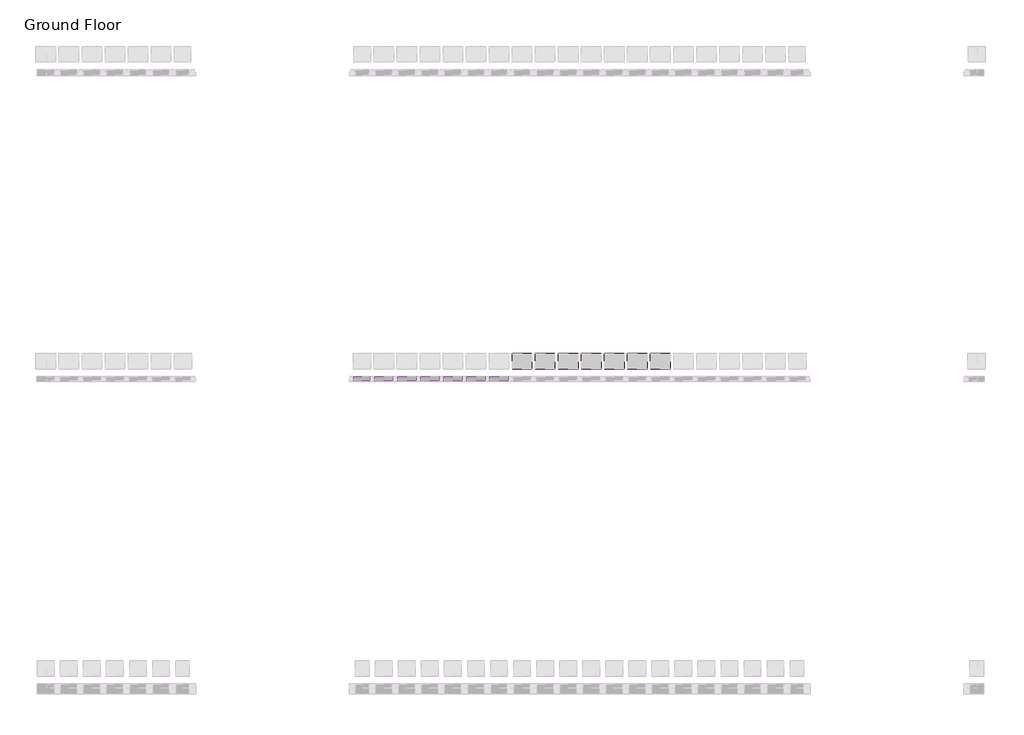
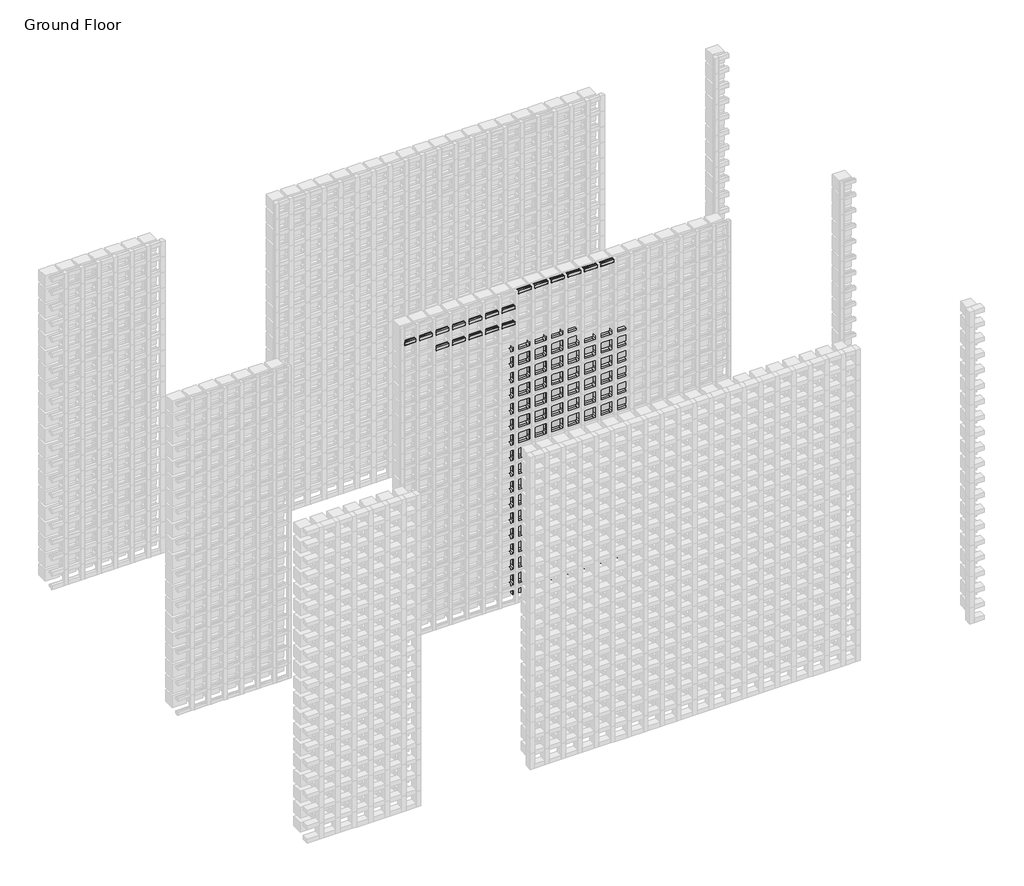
# One storey, part 106 of 350: 109 plates, 30 members.
"""IFC4 building model written with IfcOpenShell, lengths in millimetres."""

from ifc_helpers import new_model, si_unit, origin, place, context, project, spatial, transform, mapped, element, save
from components import rectangular_mullion_f1976eb1, rectangular_mullion_02594090, rectangular_mullion_790ae51e, rectangular_mullion_e2bab149, rectangular_mullion_707a50c4, empty_system_panel_empty_5a3607ba, empty_system_panel_empty_babc703c

model = new_model("IFC4")

# Units and contexts
model_context = context("Model", 3, world=origin())
ifc_project = project(units=[si_unit("LENGTHUNIT", "METRE", prefix="MILLI")], contexts=[model_context])

# Site, building, storey
site = spatial("IfcSite", under=ifc_project)
building = spatial("IfcBuilding", under=site)
storey = spatial("IfcBuildingStorey", under=building, Name="Ground Floor", Elevation=0.0)

# Members
placement = place(None, origin())
rectangular_mullion_shape = rectangular_mullion_f1976eb1(model_context)
element("IfcMember", 1, ObjectType="Rectangular Mullion : Batten_Timber_Modinex_Austratus_Grid_Fin_30x30_Blackbutt", at=placement, inside=storey, context=model_context, shape_type="MappedRepresentation", body=[
    mapped(rectangular_mullion_shape, transform((7116.4361642, 42968.2978302, 0.0), x_axis=(1.0, 0.0, 0.0), y_axis=(0.0, -1.0, 0.0), z_axis=(0.0, 0.0, -1.0))),
])
element("IfcMember", 2, ObjectType="Rectangular Mullion : Batten_Timber_Modinex_Austratus_Grid_Fin_30x30_Blackbutt", at=placement, inside=storey, context=model_context, shape_type="MappedRepresentation", body=[
    mapped(rectangular_mullion_shape, transform((7266.4361642, 42968.2978302, 0.0), x_axis=(1.0, 0.0, 0.0), y_axis=(0.0, -1.0, 0.0), z_axis=(0.0, 0.0, -1.0))),
])
element("IfcMember", 3, ObjectType="Rectangular Mullion : Batten_Timber_Modinex_Austratus_Grid_Fin_30x30_Blackbutt", at=placement, inside=storey, context=model_context, shape_type="MappedRepresentation", body=[
    mapped(rectangular_mullion_shape, transform((7416.4361642, 42968.2978302, 0.0), x_axis=(1.0, 0.0, 0.0), y_axis=(0.0, -1.0, 0.0), z_axis=(0.0, 0.0, -1.0))),
])
element("IfcMember", 4, ObjectType="Rectangular Mullion : Batten_Timber_Modinex_Austratus_Grid_Fin_30x30_Blackbutt", at=placement, inside=storey, context=model_context, shape_type="MappedRepresentation", body=[
    mapped(rectangular_mullion_shape, transform((7566.4361642, 42968.2978302, 0.0), x_axis=(1.0, 0.0, 0.0), y_axis=(0.0, -1.0, 0.0), z_axis=(0.0, 0.0, -1.0))),
])
element("IfcMember", 5, ObjectType="Rectangular Mullion : Batten_Timber_Modinex_Austratus_Grid_Fin_30x30_Blackbutt", at=placement, inside=storey, context=model_context, shape_type="MappedRepresentation", body=[
    mapped(rectangular_mullion_shape, transform((7716.4361642, 42968.2978302, 0.0), x_axis=(1.0, 0.0, 0.0), y_axis=(0.0, -1.0, 0.0), z_axis=(0.0, 0.0, -1.0))),
])
element("IfcMember", 6, ObjectType="Rectangular Mullion : Batten_Timber_Modinex_Austratus_Grid_Fin_30x30_Blackbutt", at=placement, inside=storey, context=model_context, shape_type="MappedRepresentation", body=[
    mapped(rectangular_mullion_shape, transform((7866.4361642, 42968.2978302, 0.0), x_axis=(1.0, 0.0, 0.0), y_axis=(0.0, -1.0, 0.0), z_axis=(0.0, 0.0, -1.0))),
])
rectangular_mullion_2_shape = rectangular_mullion_02594090(model_context)
element("IfcMember", 7, ObjectType="Rectangular Mullion : Batten_Timber_Modinex_Austratus_Grid_Fin_30x30_Blackbutt", at=placement, inside=storey, context=model_context, shape_type="MappedRepresentation", body=[
    mapped(rectangular_mullion_2_shape, transform((7101.4361642, 42968.2978302, 3000.0), x_axis=(0.0, 0.0, 1.0), y_axis=(0.0, -1.0, 0.0), z_axis=(1.0, 0.0, 0.0))),
])
element("IfcMember", 8, ObjectType="Rectangular Mullion : Batten_Timber_Modinex_Austratus_Grid_Fin_30x30_Blackbutt", at=placement, inside=storey, context=model_context, shape_type="MappedRepresentation", body=[
    mapped(rectangular_mullion_2_shape, transform((7251.4361642, 42968.2978302, 3000.0), x_axis=(0.0, 0.0, 1.0), y_axis=(0.0, -1.0, 0.0), z_axis=(1.0, 0.0, 0.0))),
])
element("IfcMember", 9, ObjectType="Rectangular Mullion : Batten_Timber_Modinex_Austratus_Grid_Fin_30x30_Blackbutt", at=placement, inside=storey, context=model_context, shape_type="MappedRepresentation", body=[
    mapped(rectangular_mullion_2_shape, transform((7401.4361642, 42968.2978302, 3000.0), x_axis=(0.0, 0.0, 1.0), y_axis=(0.0, -1.0, 0.0), z_axis=(1.0, 0.0, 0.0))),
])
element("IfcMember", 10, ObjectType="Rectangular Mullion : Batten_Timber_Modinex_Austratus_Grid_Fin_30x30_Blackbutt", at=placement, inside=storey, context=model_context, shape_type="MappedRepresentation", body=[
    mapped(rectangular_mullion_2_shape, transform((7551.4361642, 42968.2978302, 3000.0), x_axis=(0.0, 0.0, 1.0), y_axis=(0.0, -1.0, 0.0), z_axis=(1.0, 0.0, 0.0))),
])
element("IfcMember", 11, ObjectType="Rectangular Mullion : Batten_Timber_Modinex_Austratus_Grid_Fin_30x30_Blackbutt", at=placement, inside=storey, context=model_context, shape_type="MappedRepresentation", body=[
    mapped(rectangular_mullion_2_shape, transform((7701.4361642, 42968.2978302, 3000.0), x_axis=(0.0, 0.0, 1.0), y_axis=(0.0, -1.0, 0.0), z_axis=(1.0, 0.0, 0.0))),
])
element("IfcMember", 12, ObjectType="Rectangular Mullion : Batten_Timber_Modinex_Austratus_Grid_Fin_30x30_Blackbutt", at=placement, inside=storey, context=model_context, shape_type="MappedRepresentation", body=[
    mapped(rectangular_mullion_2_shape, transform((7851.4361642, 42968.2978302, 3000.0), x_axis=(0.0, 0.0, 1.0), y_axis=(0.0, -1.0, 0.0), z_axis=(1.0, 0.0, 0.0))),
])
rectangular_mullion_3_shape = rectangular_mullion_790ae51e(model_context)
element("IfcMember", 13, ObjectType="Rectangular Mullion : Batten_Timber_Modinex_Austratus_Grid_Fin_30x30_Blackbutt", at=placement, inside=storey, context=model_context, shape_type="MappedRepresentation", body=[
    mapped(rectangular_mullion_3_shape, transform((7131.4361642, 42968.2978302, 0.0), x_axis=(0.0, 0.0, -1.0), y_axis=(0.0, -1.0, 0.0), z_axis=(-1.0, 0.0, 0.0))),
])
element("IfcMember", 14, ObjectType="Rectangular Mullion : Batten_Timber_Modinex_Austratus_Grid_Fin_30x30_Blackbutt", at=placement, inside=storey, context=model_context, shape_type="MappedRepresentation", body=[
    mapped(rectangular_mullion_3_shape, transform((7281.4361642, 42968.2978302, 0.0), x_axis=(0.0, 0.0, -1.0), y_axis=(0.0, -1.0, 0.0), z_axis=(-1.0, 0.0, 0.0))),
])
element("IfcMember", 15, ObjectType="Rectangular Mullion : Batten_Timber_Modinex_Austratus_Grid_Fin_30x30_Blackbutt", at=placement, inside=storey, context=model_context, shape_type="MappedRepresentation", body=[
    mapped(rectangular_mullion_3_shape, transform((7431.4361642, 42968.2978302, 0.0), x_axis=(0.0, 0.0, -1.0), y_axis=(0.0, -1.0, 0.0), z_axis=(-1.0, 0.0, 0.0))),
])
element("IfcMember", 16, ObjectType="Rectangular Mullion : Batten_Timber_Modinex_Austratus_Grid_Fin_30x30_Blackbutt", at=placement, inside=storey, context=model_context, shape_type="MappedRepresentation", body=[
    mapped(rectangular_mullion_3_shape, transform((7581.4361642, 42968.2978302, 0.0), x_axis=(0.0, 0.0, -1.0), y_axis=(0.0, -1.0, 0.0), z_axis=(-1.0, 0.0, 0.0))),
])
element("IfcMember", 17, ObjectType="Rectangular Mullion : Batten_Timber_Modinex_Austratus_Grid_Fin_30x30_Blackbutt", at=placement, inside=storey, context=model_context, shape_type="MappedRepresentation", body=[
    mapped(rectangular_mullion_3_shape, transform((7731.4361642, 42968.2978302, 0.0), x_axis=(0.0, 0.0, -1.0), y_axis=(0.0, -1.0, 0.0), z_axis=(-1.0, 0.0, 0.0))),
])
element("IfcMember", 18, ObjectType="Rectangular Mullion : Batten_Timber_Modinex_Austratus_Grid_Fin_30x30_Blackbutt", at=placement, inside=storey, context=model_context, shape_type="MappedRepresentation", body=[
    mapped(rectangular_mullion_3_shape, transform((7881.4361642, 42968.2978302, 0.0), x_axis=(0.0, 0.0, -1.0), y_axis=(0.0, -1.0, 0.0), z_axis=(-1.0, 0.0, 0.0))),
])
rectangular_mullion_4_shape = rectangular_mullion_e2bab149(model_context)
element("IfcMember", 19, ObjectType="Rectangular Mullion : Batten_Timber_Modinex_Austratus_Grid_Fin_30x30_Blackbutt", at=placement, inside=storey, context=model_context, shape_type="MappedRepresentation", body=[
    mapped(rectangular_mullion_4_shape, transform((6051.4361642, 42968.2978302, 2850.0), x_axis=(0.0, 0.0, 1.0), y_axis=(0.0, -1.0, 0.0), z_axis=(1.0, 0.0, 0.0))),
])
rectangular_mullion_5_shape = rectangular_mullion_707a50c4(model_context)
element("IfcMember", 20, ObjectType="Rectangular Mullion : Batten_Timber_Modinex_Austratus_Grid_Fin_30x30_Blackbutt", at=placement, inside=storey, context=model_context, shape_type="MappedRepresentation", body=[
    mapped(rectangular_mullion_5_shape, transform((6351.4361642, 42968.2978302, 2700.0), x_axis=(0.0, 0.0, 1.0), y_axis=(0.0, -1.0, 0.0), z_axis=(1.0, 0.0, 0.0))),
])
element("IfcMember", 21, ObjectType="Rectangular Mullion : Batten_Timber_Modinex_Austratus_Grid_Fin_30x30_Blackbutt", at=placement, inside=storey, context=model_context, shape_type="MappedRepresentation", body=[
    mapped(rectangular_mullion_5_shape, transform((6501.4361642, 42968.2978302, 2700.0), x_axis=(0.0, 0.0, 1.0), y_axis=(0.0, -1.0, 0.0), z_axis=(1.0, 0.0, 0.0))),
])
element("IfcMember", 22, ObjectType="Rectangular Mullion : Batten_Timber_Modinex_Austratus_Grid_Fin_30x30_Blackbutt", at=placement, inside=storey, context=model_context, shape_type="MappedRepresentation", body=[
    mapped(rectangular_mullion_5_shape, transform((6651.4361642, 42968.2978302, 2700.0), x_axis=(0.0, 0.0, 1.0), y_axis=(0.0, -1.0, 0.0), z_axis=(1.0, 0.0, 0.0))),
])
element("IfcMember", 23, ObjectType="Rectangular Mullion : Batten_Timber_Modinex_Austratus_Grid_Fin_30x30_Blackbutt", at=placement, inside=storey, context=model_context, shape_type="MappedRepresentation", body=[
    mapped(rectangular_mullion_5_shape, transform((6801.4361642, 42968.2978302, 2700.0), x_axis=(0.0, 0.0, 1.0), y_axis=(0.0, -1.0, 0.0), z_axis=(1.0, 0.0, 0.0))),
])
element("IfcMember", 24, ObjectType="Rectangular Mullion : Batten_Timber_Modinex_Austratus_Grid_Fin_30x30_Blackbutt", at=placement, inside=storey, context=model_context, shape_type="MappedRepresentation", body=[
    mapped(rectangular_mullion_5_shape, transform((6951.4361642, 42968.2978302, 2700.0), x_axis=(0.0, 0.0, 1.0), y_axis=(0.0, -1.0, 0.0), z_axis=(1.0, 0.0, 0.0))),
])
element("IfcMember", 25, ObjectType="Rectangular Mullion : Batten_Timber_Modinex_Austratus_Grid_Fin_30x30_Blackbutt", at=placement, inside=storey, context=model_context, shape_type="MappedRepresentation", body=[
    mapped(rectangular_mullion_5_shape, transform((6201.4361642, 42968.2978302, 2850.0), x_axis=(0.0, 0.0, 1.0), y_axis=(0.0, -1.0, 0.0), z_axis=(1.0, 0.0, 0.0))),
])
element("IfcMember", 26, ObjectType="Rectangular Mullion : Batten_Timber_Modinex_Austratus_Grid_Fin_30x30_Blackbutt", at=placement, inside=storey, context=model_context, shape_type="MappedRepresentation", body=[
    mapped(rectangular_mullion_5_shape, transform((6351.4361642, 42968.2978302, 2850.0), x_axis=(0.0, 0.0, 1.0), y_axis=(0.0, -1.0, 0.0), z_axis=(1.0, 0.0, 0.0))),
])
element("IfcMember", 27, ObjectType="Rectangular Mullion : Batten_Timber_Modinex_Austratus_Grid_Fin_30x30_Blackbutt", at=placement, inside=storey, context=model_context, shape_type="MappedRepresentation", body=[
    mapped(rectangular_mullion_5_shape, transform((6501.4361642, 42968.2978302, 2850.0), x_axis=(0.0, 0.0, 1.0), y_axis=(0.0, -1.0, 0.0), z_axis=(1.0, 0.0, 0.0))),
])
element("IfcMember", 28, ObjectType="Rectangular Mullion : Batten_Timber_Modinex_Austratus_Grid_Fin_30x30_Blackbutt", at=placement, inside=storey, context=model_context, shape_type="MappedRepresentation", body=[
    mapped(rectangular_mullion_5_shape, transform((6651.4361642, 42968.2978302, 2850.0), x_axis=(0.0, 0.0, 1.0), y_axis=(0.0, -1.0, 0.0), z_axis=(1.0, 0.0, 0.0))),
])
element("IfcMember", 29, ObjectType="Rectangular Mullion : Batten_Timber_Modinex_Austratus_Grid_Fin_30x30_Blackbutt", at=placement, inside=storey, context=model_context, shape_type="MappedRepresentation", body=[
    mapped(rectangular_mullion_5_shape, transform((6801.4361642, 42968.2978302, 2850.0), x_axis=(0.0, 0.0, 1.0), y_axis=(0.0, -1.0, 0.0), z_axis=(1.0, 0.0, 0.0))),
])
element("IfcMember", 30, ObjectType="Rectangular Mullion : Batten_Timber_Modinex_Austratus_Grid_Fin_30x30_Blackbutt", at=placement, inside=storey, context=model_context, shape_type="MappedRepresentation", body=[
    mapped(rectangular_mullion_5_shape, transform((6951.4361642, 42968.2978302, 2850.0), x_axis=(0.0, 0.0, 1.0), y_axis=(0.0, -1.0, 0.0), z_axis=(1.0, 0.0, 0.0))),
])

# Plates
empty_system_panel_empty_shape = empty_system_panel_empty_5a3607ba(model_context)
element("IfcPlate", 31, ObjectType="Empty System Panel : Empty", at=placement, inside=storey, context=model_context, shape_type="MappedRepresentation", body=[
    mapped(empty_system_panel_empty_shape, transform((7041.4361642, 42968.2978302, 160.812195), x_axis=(1.0, 0.0, 0.0), y_axis=(0.0, 1.0, 0.0), z_axis=(0.0, 0.0, 1.0))),
])
element("IfcPlate", 32, ObjectType="Empty System Panel : Empty", at=placement, inside=storey, context=model_context, shape_type="MappedRepresentation", body=[
    mapped(empty_system_panel_empty_shape, transform((7191.4361642, 42968.2978302, 160.812195), x_axis=(1.0, 0.0, 0.0), y_axis=(0.0, 1.0, 0.0), z_axis=(0.0, 0.0, 1.0))),
])
element("IfcPlate", 33, ObjectType="Empty System Panel : Empty", at=placement, inside=storey, context=model_context, shape_type="MappedRepresentation", body=[
    mapped(empty_system_panel_empty_shape, transform((7341.4361642, 42968.2978302, 160.812195), x_axis=(1.0, 0.0, 0.0), y_axis=(0.0, 1.0, 0.0), z_axis=(0.0, 0.0, 1.0))),
])
element("IfcPlate", 34, ObjectType="Empty System Panel : Empty", at=placement, inside=storey, context=model_context, shape_type="MappedRepresentation", body=[
    mapped(empty_system_panel_empty_shape, transform((7491.4361642, 42968.2978302, 160.812195), x_axis=(1.0, 0.0, 0.0), y_axis=(0.0, 1.0, 0.0), z_axis=(0.0, 0.0, 1.0))),
])
element("IfcPlate", 35, ObjectType="Empty System Panel : Empty", at=placement, inside=storey, context=model_context, shape_type="MappedRepresentation", body=[
    mapped(empty_system_panel_empty_shape, transform((7641.4361642, 42968.2978302, 160.812195), x_axis=(1.0, 0.0, 0.0), y_axis=(0.0, 1.0, 0.0), z_axis=(0.0, 0.0, 1.0))),
])
element("IfcPlate", 36, ObjectType="Empty System Panel : Empty", at=placement, inside=storey, context=model_context, shape_type="MappedRepresentation", body=[
    mapped(empty_system_panel_empty_shape, transform((7791.4361642, 42968.2978302, 160.812195), x_axis=(1.0, 0.0, 0.0), y_axis=(0.0, 1.0, 0.0), z_axis=(0.0, 0.0, 1.0))),
])
element("IfcPlate", 37, ObjectType="Empty System Panel : Empty", at=placement, inside=storey, context=model_context, shape_type="MappedRepresentation", body=[
    mapped(empty_system_panel_empty_shape, transform((7941.4361642, 42968.2978302, 160.812195), x_axis=(1.0, 0.0, 0.0), y_axis=(0.0, 1.0, 0.0), z_axis=(0.0, 0.0, 1.0))),
])
element("IfcPlate", 38, ObjectType="Empty System Panel : Empty", at=placement, inside=storey, context=model_context, shape_type="MappedRepresentation", body=[
    mapped(empty_system_panel_empty_shape, transform((7041.4361642, 42968.2978302, 310.812195), x_axis=(1.0, 0.0, 0.0), y_axis=(0.0, 1.0, 0.0), z_axis=(0.0, 0.0, 1.0))),
])
element("IfcPlate", 39, ObjectType="Empty System Panel : Empty", at=placement, inside=storey, context=model_context, shape_type="MappedRepresentation", body=[
    mapped(empty_system_panel_empty_shape, transform((7191.4361642, 42968.2978302, 310.812195), x_axis=(1.0, 0.0, 0.0), y_axis=(0.0, 1.0, 0.0), z_axis=(0.0, 0.0, 1.0))),
])
element("IfcPlate", 40, ObjectType="Empty System Panel : Empty", at=placement, inside=storey, context=model_context, shape_type="MappedRepresentation", body=[
    mapped(empty_system_panel_empty_shape, transform((7341.4361642, 42968.2978302, 310.812195), x_axis=(1.0, 0.0, 0.0), y_axis=(0.0, 1.0, 0.0), z_axis=(0.0, 0.0, 1.0))),
])
element("IfcPlate", 41, ObjectType="Empty System Panel : Empty", at=placement, inside=storey, context=model_context, shape_type="MappedRepresentation", body=[
    mapped(empty_system_panel_empty_shape, transform((7491.4361642, 42968.2978302, 310.812195), x_axis=(1.0, 0.0, 0.0), y_axis=(0.0, 1.0, 0.0), z_axis=(0.0, 0.0, 1.0))),
])
element("IfcPlate", 42, ObjectType="Empty System Panel : Empty", at=placement, inside=storey, context=model_context, shape_type="MappedRepresentation", body=[
    mapped(empty_system_panel_empty_shape, transform((7641.4361642, 42968.2978302, 310.812195), x_axis=(1.0, 0.0, 0.0), y_axis=(0.0, 1.0, 0.0), z_axis=(0.0, 0.0, 1.0))),
])
element("IfcPlate", 43, ObjectType="Empty System Panel : Empty", at=placement, inside=storey, context=model_context, shape_type="MappedRepresentation", body=[
    mapped(empty_system_panel_empty_shape, transform((7791.4361642, 42968.2978302, 310.812195), x_axis=(1.0, 0.0, 0.0), y_axis=(0.0, 1.0, 0.0), z_axis=(0.0, 0.0, 1.0))),
])
element("IfcPlate", 44, ObjectType="Empty System Panel : Empty", at=placement, inside=storey, context=model_context, shape_type="MappedRepresentation", body=[
    mapped(empty_system_panel_empty_shape, transform((7941.4361642, 42968.2978302, 310.812195), x_axis=(1.0, 0.0, 0.0), y_axis=(0.0, 1.0, 0.0), z_axis=(0.0, 0.0, 1.0))),
])
element("IfcPlate", 45, ObjectType="Empty System Panel : Empty", at=placement, inside=storey, context=model_context, shape_type="MappedRepresentation", body=[
    mapped(empty_system_panel_empty_shape, transform((7041.4361642, 42968.2978302, 460.812195), x_axis=(1.0, 0.0, 0.0), y_axis=(0.0, 1.0, 0.0), z_axis=(0.0, 0.0, 1.0))),
])
element("IfcPlate", 46, ObjectType="Empty System Panel : Empty", at=placement, inside=storey, context=model_context, shape_type="MappedRepresentation", body=[
    mapped(empty_system_panel_empty_shape, transform((7191.4361642, 42968.2978302, 460.812195), x_axis=(1.0, 0.0, 0.0), y_axis=(0.0, 1.0, 0.0), z_axis=(0.0, 0.0, 1.0))),
])
element("IfcPlate", 47, ObjectType="Empty System Panel : Empty", at=placement, inside=storey, context=model_context, shape_type="MappedRepresentation", body=[
    mapped(empty_system_panel_empty_shape, transform((7341.4361642, 42968.2978302, 460.812195), x_axis=(1.0, 0.0, 0.0), y_axis=(0.0, 1.0, 0.0), z_axis=(0.0, 0.0, 1.0))),
])
element("IfcPlate", 48, ObjectType="Empty System Panel : Empty", at=placement, inside=storey, context=model_context, shape_type="MappedRepresentation", body=[
    mapped(empty_system_panel_empty_shape, transform((7491.4361642, 42968.2978302, 460.812195), x_axis=(1.0, 0.0, 0.0), y_axis=(0.0, 1.0, 0.0), z_axis=(0.0, 0.0, 1.0))),
])
element("IfcPlate", 49, ObjectType="Empty System Panel : Empty", at=placement, inside=storey, context=model_context, shape_type="MappedRepresentation", body=[
    mapped(empty_system_panel_empty_shape, transform((7641.4361642, 42968.2978302, 460.812195), x_axis=(1.0, 0.0, 0.0), y_axis=(0.0, 1.0, 0.0), z_axis=(0.0, 0.0, 1.0))),
])
element("IfcPlate", 50, ObjectType="Empty System Panel : Empty", at=placement, inside=storey, context=model_context, shape_type="MappedRepresentation", body=[
    mapped(empty_system_panel_empty_shape, transform((7791.4361642, 42968.2978302, 460.812195), x_axis=(1.0, 0.0, 0.0), y_axis=(0.0, 1.0, 0.0), z_axis=(0.0, 0.0, 1.0))),
])
element("IfcPlate", 51, ObjectType="Empty System Panel : Empty", at=placement, inside=storey, context=model_context, shape_type="MappedRepresentation", body=[
    mapped(empty_system_panel_empty_shape, transform((7941.4361642, 42968.2978302, 460.812195), x_axis=(1.0, 0.0, 0.0), y_axis=(0.0, 1.0, 0.0), z_axis=(0.0, 0.0, 1.0))),
])
element("IfcPlate", 52, ObjectType="Empty System Panel : Empty", at=placement, inside=storey, context=model_context, shape_type="MappedRepresentation", body=[
    mapped(empty_system_panel_empty_shape, transform((7041.4361642, 42968.2978302, 610.812195), x_axis=(1.0, 0.0, 0.0), y_axis=(0.0, 1.0, 0.0), z_axis=(0.0, 0.0, 1.0))),
])
element("IfcPlate", 53, ObjectType="Empty System Panel : Empty", at=placement, inside=storey, context=model_context, shape_type="MappedRepresentation", body=[
    mapped(empty_system_panel_empty_shape, transform((7191.4361642, 42968.2978302, 610.812195), x_axis=(1.0, 0.0, 0.0), y_axis=(0.0, 1.0, 0.0), z_axis=(0.0, 0.0, 1.0))),
])
element("IfcPlate", 54, ObjectType="Empty System Panel : Empty", at=placement, inside=storey, context=model_context, shape_type="MappedRepresentation", body=[
    mapped(empty_system_panel_empty_shape, transform((7341.4361642, 42968.2978302, 610.812195), x_axis=(1.0, 0.0, 0.0), y_axis=(0.0, 1.0, 0.0), z_axis=(0.0, 0.0, 1.0))),
])
element("IfcPlate", 55, ObjectType="Empty System Panel : Empty", at=placement, inside=storey, context=model_context, shape_type="MappedRepresentation", body=[
    mapped(empty_system_panel_empty_shape, transform((7491.4361642, 42968.2978302, 610.812195), x_axis=(1.0, 0.0, 0.0), y_axis=(0.0, 1.0, 0.0), z_axis=(0.0, 0.0, 1.0))),
])
element("IfcPlate", 56, ObjectType="Empty System Panel : Empty", at=placement, inside=storey, context=model_context, shape_type="MappedRepresentation", body=[
    mapped(empty_system_panel_empty_shape, transform((7641.4361642, 42968.2978302, 610.812195), x_axis=(1.0, 0.0, 0.0), y_axis=(0.0, 1.0, 0.0), z_axis=(0.0, 0.0, 1.0))),
])
element("IfcPlate", 57, ObjectType="Empty System Panel : Empty", at=placement, inside=storey, context=model_context, shape_type="MappedRepresentation", body=[
    mapped(empty_system_panel_empty_shape, transform((7791.4361642, 42968.2978302, 610.812195), x_axis=(1.0, 0.0, 0.0), y_axis=(0.0, 1.0, 0.0), z_axis=(0.0, 0.0, 1.0))),
])
element("IfcPlate", 58, ObjectType="Empty System Panel : Empty", at=placement, inside=storey, context=model_context, shape_type="MappedRepresentation", body=[
    mapped(empty_system_panel_empty_shape, transform((7941.4361642, 42968.2978302, 610.812195), x_axis=(1.0, 0.0, 0.0), y_axis=(0.0, 1.0, 0.0), z_axis=(0.0, 0.0, 1.0))),
])
element("IfcPlate", 59, ObjectType="Empty System Panel : Empty", at=placement, inside=storey, context=model_context, shape_type="MappedRepresentation", body=[
    mapped(empty_system_panel_empty_shape, transform((7041.4361642, 42968.2978302, 760.812195), x_axis=(1.0, 0.0, 0.0), y_axis=(0.0, 1.0, 0.0), z_axis=(0.0, 0.0, 1.0))),
])
element("IfcPlate", 60, ObjectType="Empty System Panel : Empty", at=placement, inside=storey, context=model_context, shape_type="MappedRepresentation", body=[
    mapped(empty_system_panel_empty_shape, transform((7191.4361642, 42968.2978302, 760.812195), x_axis=(1.0, 0.0, 0.0), y_axis=(0.0, 1.0, 0.0), z_axis=(0.0, 0.0, 1.0))),
])
element("IfcPlate", 61, ObjectType="Empty System Panel : Empty", at=placement, inside=storey, context=model_context, shape_type="MappedRepresentation", body=[
    mapped(empty_system_panel_empty_shape, transform((7341.4361642, 42968.2978302, 760.812195), x_axis=(1.0, 0.0, 0.0), y_axis=(0.0, 1.0, 0.0), z_axis=(0.0, 0.0, 1.0))),
])
element("IfcPlate", 62, ObjectType="Empty System Panel : Empty", at=placement, inside=storey, context=model_context, shape_type="MappedRepresentation", body=[
    mapped(empty_system_panel_empty_shape, transform((7491.4361642, 42968.2978302, 760.812195), x_axis=(1.0, 0.0, 0.0), y_axis=(0.0, 1.0, 0.0), z_axis=(0.0, 0.0, 1.0))),
])
element("IfcPlate", 63, ObjectType="Empty System Panel : Empty", at=placement, inside=storey, context=model_context, shape_type="MappedRepresentation", body=[
    mapped(empty_system_panel_empty_shape, transform((7641.4361642, 42968.2978302, 760.812195), x_axis=(1.0, 0.0, 0.0), y_axis=(0.0, 1.0, 0.0), z_axis=(0.0, 0.0, 1.0))),
])
element("IfcPlate", 64, ObjectType="Empty System Panel : Empty", at=placement, inside=storey, context=model_context, shape_type="MappedRepresentation", body=[
    mapped(empty_system_panel_empty_shape, transform((7791.4361642, 42968.2978302, 760.812195), x_axis=(1.0, 0.0, 0.0), y_axis=(0.0, 1.0, 0.0), z_axis=(0.0, 0.0, 1.0))),
])
element("IfcPlate", 65, ObjectType="Empty System Panel : Empty", at=placement, inside=storey, context=model_context, shape_type="MappedRepresentation", body=[
    mapped(empty_system_panel_empty_shape, transform((7941.4361642, 42968.2978302, 760.812195), x_axis=(1.0, 0.0, 0.0), y_axis=(0.0, 1.0, 0.0), z_axis=(0.0, 0.0, 1.0))),
])
element("IfcPlate", 66, ObjectType="Empty System Panel : Empty", at=placement, inside=storey, context=model_context, shape_type="MappedRepresentation", body=[
    mapped(empty_system_panel_empty_shape, transform((7041.4361642, 42968.2978302, 910.812195), x_axis=(1.0, 0.0, 0.0), y_axis=(0.0, 1.0, 0.0), z_axis=(0.0, 0.0, 1.0))),
])
element("IfcPlate", 67, ObjectType="Empty System Panel : Empty", at=placement, inside=storey, context=model_context, shape_type="MappedRepresentation", body=[
    mapped(empty_system_panel_empty_shape, transform((7191.4361642, 42968.2978302, 910.812195), x_axis=(1.0, 0.0, 0.0), y_axis=(0.0, 1.0, 0.0), z_axis=(0.0, 0.0, 1.0))),
])
element("IfcPlate", 68, ObjectType="Empty System Panel : Empty", at=placement, inside=storey, context=model_context, shape_type="MappedRepresentation", body=[
    mapped(empty_system_panel_empty_shape, transform((7341.4361642, 42968.2978302, 910.812195), x_axis=(1.0, 0.0, 0.0), y_axis=(0.0, 1.0, 0.0), z_axis=(0.0, 0.0, 1.0))),
])
element("IfcPlate", 69, ObjectType="Empty System Panel : Empty", at=placement, inside=storey, context=model_context, shape_type="MappedRepresentation", body=[
    mapped(empty_system_panel_empty_shape, transform((7491.4361642, 42968.2978302, 910.812195), x_axis=(1.0, 0.0, 0.0), y_axis=(0.0, 1.0, 0.0), z_axis=(0.0, 0.0, 1.0))),
])
element("IfcPlate", 70, ObjectType="Empty System Panel : Empty", at=placement, inside=storey, context=model_context, shape_type="MappedRepresentation", body=[
    mapped(empty_system_panel_empty_shape, transform((7641.4361642, 42968.2978302, 910.812195), x_axis=(1.0, 0.0, 0.0), y_axis=(0.0, 1.0, 0.0), z_axis=(0.0, 0.0, 1.0))),
])
element("IfcPlate", 71, ObjectType="Empty System Panel : Empty", at=placement, inside=storey, context=model_context, shape_type="MappedRepresentation", body=[
    mapped(empty_system_panel_empty_shape, transform((7791.4361642, 42968.2978302, 910.812195), x_axis=(1.0, 0.0, 0.0), y_axis=(0.0, 1.0, 0.0), z_axis=(0.0, 0.0, 1.0))),
])
element("IfcPlate", 72, ObjectType="Empty System Panel : Empty", at=placement, inside=storey, context=model_context, shape_type="MappedRepresentation", body=[
    mapped(empty_system_panel_empty_shape, transform((7941.4361642, 42968.2978302, 910.812195), x_axis=(1.0, 0.0, 0.0), y_axis=(0.0, 1.0, 0.0), z_axis=(0.0, 0.0, 1.0))),
])
element("IfcPlate", 73, ObjectType="Empty System Panel : Empty", at=placement, inside=storey, context=model_context, shape_type="MappedRepresentation", body=[
    mapped(empty_system_panel_empty_shape, transform((7041.4361642, 42968.2978302, 1060.812195), x_axis=(1.0, 0.0, 0.0), y_axis=(0.0, 1.0, 0.0), z_axis=(0.0, 0.0, 1.0))),
])
element("IfcPlate", 74, ObjectType="Empty System Panel : Empty", at=placement, inside=storey, context=model_context, shape_type="MappedRepresentation", body=[
    mapped(empty_system_panel_empty_shape, transform((7191.4361642, 42968.2978302, 1060.812195), x_axis=(1.0, 0.0, 0.0), y_axis=(0.0, 1.0, 0.0), z_axis=(0.0, 0.0, 1.0))),
])
element("IfcPlate", 75, ObjectType="Empty System Panel : Empty", at=placement, inside=storey, context=model_context, shape_type="MappedRepresentation", body=[
    mapped(empty_system_panel_empty_shape, transform((7341.4361642, 42968.2978302, 1060.812195), x_axis=(1.0, 0.0, 0.0), y_axis=(0.0, 1.0, 0.0), z_axis=(0.0, 0.0, 1.0))),
])
element("IfcPlate", 76, ObjectType="Empty System Panel : Empty", at=placement, inside=storey, context=model_context, shape_type="MappedRepresentation", body=[
    mapped(empty_system_panel_empty_shape, transform((7491.4361642, 42968.2978302, 1060.812195), x_axis=(1.0, 0.0, 0.0), y_axis=(0.0, 1.0, 0.0), z_axis=(0.0, 0.0, 1.0))),
])
element("IfcPlate", 77, ObjectType="Empty System Panel : Empty", at=placement, inside=storey, context=model_context, shape_type="MappedRepresentation", body=[
    mapped(empty_system_panel_empty_shape, transform((7641.4361642, 42968.2978302, 1060.812195), x_axis=(1.0, 0.0, 0.0), y_axis=(0.0, 1.0, 0.0), z_axis=(0.0, 0.0, 1.0))),
])
element("IfcPlate", 78, ObjectType="Empty System Panel : Empty", at=placement, inside=storey, context=model_context, shape_type="MappedRepresentation", body=[
    mapped(empty_system_panel_empty_shape, transform((7791.4361642, 42968.2978302, 1060.812195), x_axis=(1.0, 0.0, 0.0), y_axis=(0.0, 1.0, 0.0), z_axis=(0.0, 0.0, 1.0))),
])
element("IfcPlate", 79, ObjectType="Empty System Panel : Empty", at=placement, inside=storey, context=model_context, shape_type="MappedRepresentation", body=[
    mapped(empty_system_panel_empty_shape, transform((7941.4361642, 42968.2978302, 1060.812195), x_axis=(1.0, 0.0, 0.0), y_axis=(0.0, 1.0, 0.0), z_axis=(0.0, 0.0, 1.0))),
])
element("IfcPlate", 80, ObjectType="Empty System Panel : Empty", at=placement, inside=storey, context=model_context, shape_type="MappedRepresentation", body=[
    mapped(empty_system_panel_empty_shape, transform((7041.4361642, 42968.2978302, 1210.812195), x_axis=(1.0, 0.0, 0.0), y_axis=(0.0, 1.0, 0.0), z_axis=(0.0, 0.0, 1.0))),
])
element("IfcPlate", 81, ObjectType="Empty System Panel : Empty", at=placement, inside=storey, context=model_context, shape_type="MappedRepresentation", body=[
    mapped(empty_system_panel_empty_shape, transform((7191.4361642, 42968.2978302, 1210.812195), x_axis=(1.0, 0.0, 0.0), y_axis=(0.0, 1.0, 0.0), z_axis=(0.0, 0.0, 1.0))),
])
element("IfcPlate", 82, ObjectType="Empty System Panel : Empty", at=placement, inside=storey, context=model_context, shape_type="MappedRepresentation", body=[
    mapped(empty_system_panel_empty_shape, transform((7341.4361642, 42968.2978302, 1210.812195), x_axis=(1.0, 0.0, 0.0), y_axis=(0.0, 1.0, 0.0), z_axis=(0.0, 0.0, 1.0))),
])
element("IfcPlate", 83, ObjectType="Empty System Panel : Empty", at=placement, inside=storey, context=model_context, shape_type="MappedRepresentation", body=[
    mapped(empty_system_panel_empty_shape, transform((7491.4361642, 42968.2978302, 1210.812195), x_axis=(1.0, 0.0, 0.0), y_axis=(0.0, 1.0, 0.0), z_axis=(0.0, 0.0, 1.0))),
])
element("IfcPlate", 84, ObjectType="Empty System Panel : Empty", at=placement, inside=storey, context=model_context, shape_type="MappedRepresentation", body=[
    mapped(empty_system_panel_empty_shape, transform((7641.4361642, 42968.2978302, 1210.812195), x_axis=(1.0, 0.0, 0.0), y_axis=(0.0, 1.0, 0.0), z_axis=(0.0, 0.0, 1.0))),
])
element("IfcPlate", 85, ObjectType="Empty System Panel : Empty", at=placement, inside=storey, context=model_context, shape_type="MappedRepresentation", body=[
    mapped(empty_system_panel_empty_shape, transform((7791.4361642, 42968.2978302, 1210.812195), x_axis=(1.0, 0.0, 0.0), y_axis=(0.0, 1.0, 0.0), z_axis=(0.0, 0.0, 1.0))),
])
element("IfcPlate", 86, ObjectType="Empty System Panel : Empty", at=placement, inside=storey, context=model_context, shape_type="MappedRepresentation", body=[
    mapped(empty_system_panel_empty_shape, transform((7941.4361642, 42968.2978302, 1210.812195), x_axis=(1.0, 0.0, 0.0), y_axis=(0.0, 1.0, 0.0), z_axis=(0.0, 0.0, 1.0))),
])
element("IfcPlate", 87, ObjectType="Empty System Panel : Empty", at=placement, inside=storey, context=model_context, shape_type="MappedRepresentation", body=[
    mapped(empty_system_panel_empty_shape, transform((7041.4361642, 42968.2978302, 1360.812195), x_axis=(1.0, 0.0, 0.0), y_axis=(0.0, 1.0, 0.0), z_axis=(0.0, 0.0, 1.0))),
])
element("IfcPlate", 88, ObjectType="Empty System Panel : Empty", at=placement, inside=storey, context=model_context, shape_type="MappedRepresentation", body=[
    mapped(empty_system_panel_empty_shape, transform((7191.4361642, 42968.2978302, 1360.812195), x_axis=(1.0, 0.0, 0.0), y_axis=(0.0, 1.0, 0.0), z_axis=(0.0, 0.0, 1.0))),
])
element("IfcPlate", 89, ObjectType="Empty System Panel : Empty", at=placement, inside=storey, context=model_context, shape_type="MappedRepresentation", body=[
    mapped(empty_system_panel_empty_shape, transform((7341.4361642, 42968.2978302, 1360.812195), x_axis=(1.0, 0.0, 0.0), y_axis=(0.0, 1.0, 0.0), z_axis=(0.0, 0.0, 1.0))),
])
element("IfcPlate", 90, ObjectType="Empty System Panel : Empty", at=placement, inside=storey, context=model_context, shape_type="MappedRepresentation", body=[
    mapped(empty_system_panel_empty_shape, transform((7491.4361642, 42968.2978302, 1360.812195), x_axis=(1.0, 0.0, 0.0), y_axis=(0.0, 1.0, 0.0), z_axis=(0.0, 0.0, 1.0))),
])
element("IfcPlate", 91, ObjectType="Empty System Panel : Empty", at=placement, inside=storey, context=model_context, shape_type="MappedRepresentation", body=[
    mapped(empty_system_panel_empty_shape, transform((7641.4361642, 42968.2978302, 1360.812195), x_axis=(1.0, 0.0, 0.0), y_axis=(0.0, 1.0, 0.0), z_axis=(0.0, 0.0, 1.0))),
])
element("IfcPlate", 92, ObjectType="Empty System Panel : Empty", at=placement, inside=storey, context=model_context, shape_type="MappedRepresentation", body=[
    mapped(empty_system_panel_empty_shape, transform((7791.4361642, 42968.2978302, 1360.812195), x_axis=(1.0, 0.0, 0.0), y_axis=(0.0, 1.0, 0.0), z_axis=(0.0, 0.0, 1.0))),
])
element("IfcPlate", 93, ObjectType="Empty System Panel : Empty", at=placement, inside=storey, context=model_context, shape_type="MappedRepresentation", body=[
    mapped(empty_system_panel_empty_shape, transform((7941.4361642, 42968.2978302, 1360.812195), x_axis=(1.0, 0.0, 0.0), y_axis=(0.0, 1.0, 0.0), z_axis=(0.0, 0.0, 1.0))),
])
element("IfcPlate", 94, ObjectType="Empty System Panel : Empty", at=placement, inside=storey, context=model_context, shape_type="MappedRepresentation", body=[
    mapped(empty_system_panel_empty_shape, transform((7041.4361642, 42968.2978302, 1510.812195), x_axis=(1.0, 0.0, 0.0), y_axis=(0.0, 1.0, 0.0), z_axis=(0.0, 0.0, 1.0))),
])
element("IfcPlate", 95, ObjectType="Empty System Panel : Empty", at=placement, inside=storey, context=model_context, shape_type="MappedRepresentation", body=[
    mapped(empty_system_panel_empty_shape, transform((7191.4361642, 42968.2978302, 1510.812195), x_axis=(1.0, 0.0, 0.0), y_axis=(0.0, 1.0, 0.0), z_axis=(0.0, 0.0, 1.0))),
])
element("IfcPlate", 96, ObjectType="Empty System Panel : Empty", at=placement, inside=storey, context=model_context, shape_type="MappedRepresentation", body=[
    mapped(empty_system_panel_empty_shape, transform((7341.4361642, 42968.2978302, 1510.812195), x_axis=(1.0, 0.0, 0.0), y_axis=(0.0, 1.0, 0.0), z_axis=(0.0, 0.0, 1.0))),
])
element("IfcPlate", 97, ObjectType="Empty System Panel : Empty", at=placement, inside=storey, context=model_context, shape_type="MappedRepresentation", body=[
    mapped(empty_system_panel_empty_shape, transform((7491.4361642, 42968.2978302, 1510.812195), x_axis=(1.0, 0.0, 0.0), y_axis=(0.0, 1.0, 0.0), z_axis=(0.0, 0.0, 1.0))),
])
element("IfcPlate", 98, ObjectType="Empty System Panel : Empty", at=placement, inside=storey, context=model_context, shape_type="MappedRepresentation", body=[
    mapped(empty_system_panel_empty_shape, transform((7641.4361642, 42968.2978302, 1510.812195), x_axis=(1.0, 0.0, 0.0), y_axis=(0.0, 1.0, 0.0), z_axis=(0.0, 0.0, 1.0))),
])
element("IfcPlate", 99, ObjectType="Empty System Panel : Empty", at=placement, inside=storey, context=model_context, shape_type="MappedRepresentation", body=[
    mapped(empty_system_panel_empty_shape, transform((7791.4361642, 42968.2978302, 1510.812195), x_axis=(1.0, 0.0, 0.0), y_axis=(0.0, 1.0, 0.0), z_axis=(0.0, 0.0, 1.0))),
])
element("IfcPlate", 100, ObjectType="Empty System Panel : Empty", at=placement, inside=storey, context=model_context, shape_type="MappedRepresentation", body=[
    mapped(empty_system_panel_empty_shape, transform((7941.4361642, 42968.2978302, 1510.812195), x_axis=(1.0, 0.0, 0.0), y_axis=(0.0, 1.0, 0.0), z_axis=(0.0, 0.0, 1.0))),
])
element("IfcPlate", 101, ObjectType="Empty System Panel : Empty", at=placement, inside=storey, context=model_context, shape_type="MappedRepresentation", body=[
    mapped(empty_system_panel_empty_shape, transform((7041.4361642, 42968.2978302, 1660.812195), x_axis=(1.0, 0.0, 0.0), y_axis=(0.0, 1.0, 0.0), z_axis=(0.0, 0.0, 1.0))),
])
element("IfcPlate", 102, ObjectType="Empty System Panel : Empty", at=placement, inside=storey, context=model_context, shape_type="MappedRepresentation", body=[
    mapped(empty_system_panel_empty_shape, transform((7191.4361642, 42968.2978302, 1660.812195), x_axis=(1.0, 0.0, 0.0), y_axis=(0.0, 1.0, 0.0), z_axis=(0.0, 0.0, 1.0))),
])
element("IfcPlate", 103, ObjectType="Empty System Panel : Empty", at=placement, inside=storey, context=model_context, shape_type="MappedRepresentation", body=[
    mapped(empty_system_panel_empty_shape, transform((7341.4361642, 42968.2978302, 1660.812195), x_axis=(1.0, 0.0, 0.0), y_axis=(0.0, 1.0, 0.0), z_axis=(0.0, 0.0, 1.0))),
])
element("IfcPlate", 104, ObjectType="Empty System Panel : Empty", at=placement, inside=storey, context=model_context, shape_type="MappedRepresentation", body=[
    mapped(empty_system_panel_empty_shape, transform((7491.4361642, 42968.2978302, 1660.812195), x_axis=(1.0, 0.0, 0.0), y_axis=(0.0, 1.0, 0.0), z_axis=(0.0, 0.0, 1.0))),
])
element("IfcPlate", 105, ObjectType="Empty System Panel : Empty", at=placement, inside=storey, context=model_context, shape_type="MappedRepresentation", body=[
    mapped(empty_system_panel_empty_shape, transform((7641.4361642, 42968.2978302, 1660.812195), x_axis=(1.0, 0.0, 0.0), y_axis=(0.0, 1.0, 0.0), z_axis=(0.0, 0.0, 1.0))),
])
element("IfcPlate", 106, ObjectType="Empty System Panel : Empty", at=placement, inside=storey, context=model_context, shape_type="MappedRepresentation", body=[
    mapped(empty_system_panel_empty_shape, transform((7791.4361642, 42968.2978302, 1660.812195), x_axis=(1.0, 0.0, 0.0), y_axis=(0.0, 1.0, 0.0), z_axis=(0.0, 0.0, 1.0))),
])
element("IfcPlate", 107, ObjectType="Empty System Panel : Empty", at=placement, inside=storey, context=model_context, shape_type="MappedRepresentation", body=[
    mapped(empty_system_panel_empty_shape, transform((7941.4361642, 42968.2978302, 1660.812195), x_axis=(1.0, 0.0, 0.0), y_axis=(0.0, 1.0, 0.0), z_axis=(0.0, 0.0, 1.0))),
])
element("IfcPlate", 108, ObjectType="Empty System Panel : Empty", at=placement, inside=storey, context=model_context, shape_type="MappedRepresentation", body=[
    mapped(empty_system_panel_empty_shape, transform((7041.4361642, 42968.2978302, 1810.812195), x_axis=(1.0, 0.0, 0.0), y_axis=(0.0, 1.0, 0.0), z_axis=(0.0, 0.0, 1.0))),
])
element("IfcPlate", 109, ObjectType="Empty System Panel : Empty", at=placement, inside=storey, context=model_context, shape_type="MappedRepresentation", body=[
    mapped(empty_system_panel_empty_shape, transform((7191.4361642, 42968.2978302, 1810.812195), x_axis=(1.0, 0.0, 0.0), y_axis=(0.0, 1.0, 0.0), z_axis=(0.0, 0.0, 1.0))),
])
element("IfcPlate", 110, ObjectType="Empty System Panel : Empty", at=placement, inside=storey, context=model_context, shape_type="MappedRepresentation", body=[
    mapped(empty_system_panel_empty_shape, transform((7341.4361642, 42968.2978302, 1810.812195), x_axis=(1.0, 0.0, 0.0), y_axis=(0.0, 1.0, 0.0), z_axis=(0.0, 0.0, 1.0))),
])
element("IfcPlate", 111, ObjectType="Empty System Panel : Empty", at=placement, inside=storey, context=model_context, shape_type="MappedRepresentation", body=[
    mapped(empty_system_panel_empty_shape, transform((7491.4361642, 42968.2978302, 1810.812195), x_axis=(1.0, 0.0, 0.0), y_axis=(0.0, 1.0, 0.0), z_axis=(0.0, 0.0, 1.0))),
])
element("IfcPlate", 112, ObjectType="Empty System Panel : Empty", at=placement, inside=storey, context=model_context, shape_type="MappedRepresentation", body=[
    mapped(empty_system_panel_empty_shape, transform((7641.4361642, 42968.2978302, 1810.812195), x_axis=(1.0, 0.0, 0.0), y_axis=(0.0, 1.0, 0.0), z_axis=(0.0, 0.0, 1.0))),
])
element("IfcPlate", 113, ObjectType="Empty System Panel : Empty", at=placement, inside=storey, context=model_context, shape_type="MappedRepresentation", body=[
    mapped(empty_system_panel_empty_shape, transform((7791.4361642, 42968.2978302, 1810.812195), x_axis=(1.0, 0.0, 0.0), y_axis=(0.0, 1.0, 0.0), z_axis=(0.0, 0.0, 1.0))),
])
element("IfcPlate", 114, ObjectType="Empty System Panel : Empty", at=placement, inside=storey, context=model_context, shape_type="MappedRepresentation", body=[
    mapped(empty_system_panel_empty_shape, transform((7941.4361642, 42968.2978302, 1810.812195), x_axis=(1.0, 0.0, 0.0), y_axis=(0.0, 1.0, 0.0), z_axis=(0.0, 0.0, 1.0))),
])
element("IfcPlate", 115, ObjectType="Empty System Panel : Empty", at=placement, inside=storey, context=model_context, shape_type="MappedRepresentation", body=[
    mapped(empty_system_panel_empty_shape, transform((7041.4361642, 42968.2978302, 1960.812195), x_axis=(1.0, 0.0, 0.0), y_axis=(0.0, 1.0, 0.0), z_axis=(0.0, 0.0, 1.0))),
])
element("IfcPlate", 116, ObjectType="Empty System Panel : Empty", at=placement, inside=storey, context=model_context, shape_type="MappedRepresentation", body=[
    mapped(empty_system_panel_empty_shape, transform((7191.4361642, 42968.2978302, 1960.812195), x_axis=(1.0, 0.0, 0.0), y_axis=(0.0, 1.0, 0.0), z_axis=(0.0, 0.0, 1.0))),
])
element("IfcPlate", 117, ObjectType="Empty System Panel : Empty", at=placement, inside=storey, context=model_context, shape_type="MappedRepresentation", body=[
    mapped(empty_system_panel_empty_shape, transform((7341.4361642, 42968.2978302, 1960.812195), x_axis=(1.0, 0.0, 0.0), y_axis=(0.0, 1.0, 0.0), z_axis=(0.0, 0.0, 1.0))),
])
element("IfcPlate", 118, ObjectType="Empty System Panel : Empty", at=placement, inside=storey, context=model_context, shape_type="MappedRepresentation", body=[
    mapped(empty_system_panel_empty_shape, transform((7491.4361642, 42968.2978302, 1960.812195), x_axis=(1.0, 0.0, 0.0), y_axis=(0.0, 1.0, 0.0), z_axis=(0.0, 0.0, 1.0))),
])
element("IfcPlate", 119, ObjectType="Empty System Panel : Empty", at=placement, inside=storey, context=model_context, shape_type="MappedRepresentation", body=[
    mapped(empty_system_panel_empty_shape, transform((7641.4361642, 42968.2978302, 1960.812195), x_axis=(1.0, 0.0, 0.0), y_axis=(0.0, 1.0, 0.0), z_axis=(0.0, 0.0, 1.0))),
])
element("IfcPlate", 120, ObjectType="Empty System Panel : Empty", at=placement, inside=storey, context=model_context, shape_type="MappedRepresentation", body=[
    mapped(empty_system_panel_empty_shape, transform((7791.4361642, 42968.2978302, 1960.812195), x_axis=(1.0, 0.0, 0.0), y_axis=(0.0, 1.0, 0.0), z_axis=(0.0, 0.0, 1.0))),
])
element("IfcPlate", 121, ObjectType="Empty System Panel : Empty", at=placement, inside=storey, context=model_context, shape_type="MappedRepresentation", body=[
    mapped(empty_system_panel_empty_shape, transform((7941.4361642, 42968.2978302, 1960.812195), x_axis=(1.0, 0.0, 0.0), y_axis=(0.0, 1.0, 0.0), z_axis=(0.0, 0.0, 1.0))),
])
element("IfcPlate", 122, ObjectType="Empty System Panel : Empty", at=placement, inside=storey, context=model_context, shape_type="MappedRepresentation", body=[
    mapped(empty_system_panel_empty_shape, transform((7041.4361642, 42968.2978302, 2110.812195), x_axis=(1.0, 0.0, 0.0), y_axis=(0.0, 1.0, 0.0), z_axis=(0.0, 0.0, 1.0))),
])
element("IfcPlate", 123, ObjectType="Empty System Panel : Empty", at=placement, inside=storey, context=model_context, shape_type="MappedRepresentation", body=[
    mapped(empty_system_panel_empty_shape, transform((7191.4361642, 42968.2978302, 2110.812195), x_axis=(1.0, 0.0, 0.0), y_axis=(0.0, 1.0, 0.0), z_axis=(0.0, 0.0, 1.0))),
])
element("IfcPlate", 124, ObjectType="Empty System Panel : Empty", at=placement, inside=storey, context=model_context, shape_type="MappedRepresentation", body=[
    mapped(empty_system_panel_empty_shape, transform((7341.4361642, 42968.2978302, 2110.812195), x_axis=(1.0, 0.0, 0.0), y_axis=(0.0, 1.0, 0.0), z_axis=(0.0, 0.0, 1.0))),
])
element("IfcPlate", 125, ObjectType="Empty System Panel : Empty", at=placement, inside=storey, context=model_context, shape_type="MappedRepresentation", body=[
    mapped(empty_system_panel_empty_shape, transform((7491.4361642, 42968.2978302, 2110.812195), x_axis=(1.0, 0.0, 0.0), y_axis=(0.0, 1.0, 0.0), z_axis=(0.0, 0.0, 1.0))),
])
element("IfcPlate", 126, ObjectType="Empty System Panel : Empty", at=placement, inside=storey, context=model_context, shape_type="MappedRepresentation", body=[
    mapped(empty_system_panel_empty_shape, transform((7641.4361642, 42968.2978302, 2110.812195), x_axis=(1.0, 0.0, 0.0), y_axis=(0.0, 1.0, 0.0), z_axis=(0.0, 0.0, 1.0))),
])
element("IfcPlate", 127, ObjectType="Empty System Panel : Empty", at=placement, inside=storey, context=model_context, shape_type="MappedRepresentation", body=[
    mapped(empty_system_panel_empty_shape, transform((7791.4361642, 42968.2978302, 2110.812195), x_axis=(1.0, 0.0, 0.0), y_axis=(0.0, 1.0, 0.0), z_axis=(0.0, 0.0, 1.0))),
])
element("IfcPlate", 128, ObjectType="Empty System Panel : Empty", at=placement, inside=storey, context=model_context, shape_type="MappedRepresentation", body=[
    mapped(empty_system_panel_empty_shape, transform((7941.4361642, 42968.2978302, 2110.812195), x_axis=(1.0, 0.0, 0.0), y_axis=(0.0, 1.0, 0.0), z_axis=(0.0, 0.0, 1.0))),
])
element("IfcPlate", 129, ObjectType="Empty System Panel : Empty", at=placement, inside=storey, context=model_context, shape_type="MappedRepresentation", body=[
    mapped(empty_system_panel_empty_shape, transform((7041.4361642, 42968.2978302, 2260.812195), x_axis=(1.0, 0.0, 0.0), y_axis=(0.0, 1.0, 0.0), z_axis=(0.0, 0.0, 1.0))),
])
element("IfcPlate", 130, ObjectType="Empty System Panel : Empty", at=placement, inside=storey, context=model_context, shape_type="MappedRepresentation", body=[
    mapped(empty_system_panel_empty_shape, transform((7191.4361642, 42968.2978302, 2260.812195), x_axis=(1.0, 0.0, 0.0), y_axis=(0.0, 1.0, 0.0), z_axis=(0.0, 0.0, 1.0))),
])
element("IfcPlate", 131, ObjectType="Empty System Panel : Empty", at=placement, inside=storey, context=model_context, shape_type="MappedRepresentation", body=[
    mapped(empty_system_panel_empty_shape, transform((7341.4361642, 42968.2978302, 2260.812195), x_axis=(1.0, 0.0, 0.0), y_axis=(0.0, 1.0, 0.0), z_axis=(0.0, 0.0, 1.0))),
])
element("IfcPlate", 132, ObjectType="Empty System Panel : Empty", at=placement, inside=storey, context=model_context, shape_type="MappedRepresentation", body=[
    mapped(empty_system_panel_empty_shape, transform((7491.4361642, 42968.2978302, 2260.812195), x_axis=(1.0, 0.0, 0.0), y_axis=(0.0, 1.0, 0.0), z_axis=(0.0, 0.0, 1.0))),
])
empty_system_panel_empty_2_shape = empty_system_panel_empty_babc703c(model_context)
element("IfcPlate", 133, ObjectType="Empty System Panel : Empty", at=placement, inside=storey, context=model_context, shape_type="MappedRepresentation", body=[
    mapped(empty_system_panel_empty_2_shape, transform((7041.4361642, 42968.2978302, 25.812195), x_axis=(1.0, 0.0, 0.0), y_axis=(0.0, 1.0, 0.0), z_axis=(0.0, 0.0, 1.0))),
])
element("IfcPlate", 134, ObjectType="Empty System Panel : Empty", at=placement, inside=storey, context=model_context, shape_type="MappedRepresentation", body=[
    mapped(empty_system_panel_empty_2_shape, transform((7191.4361642, 42968.2978302, 25.812195), x_axis=(1.0, 0.0, 0.0), y_axis=(0.0, 1.0, 0.0), z_axis=(0.0, 0.0, 1.0))),
])
element("IfcPlate", 135, ObjectType="Empty System Panel : Empty", at=placement, inside=storey, context=model_context, shape_type="MappedRepresentation", body=[
    mapped(empty_system_panel_empty_2_shape, transform((7341.4361642, 42968.2978302, 25.812195), x_axis=(1.0, 0.0, 0.0), y_axis=(0.0, 1.0, 0.0), z_axis=(0.0, 0.0, 1.0))),
])
element("IfcPlate", 136, ObjectType="Empty System Panel : Empty", at=placement, inside=storey, context=model_context, shape_type="MappedRepresentation", body=[
    mapped(empty_system_panel_empty_2_shape, transform((7491.4361642, 42968.2978302, 25.812195), x_axis=(1.0, 0.0, 0.0), y_axis=(0.0, 1.0, 0.0), z_axis=(0.0, 0.0, 1.0))),
])
element("IfcPlate", 137, ObjectType="Empty System Panel : Empty", at=placement, inside=storey, context=model_context, shape_type="MappedRepresentation", body=[
    mapped(empty_system_panel_empty_2_shape, transform((7641.4361642, 42968.2978302, 25.812195), x_axis=(1.0, 0.0, 0.0), y_axis=(0.0, 1.0, 0.0), z_axis=(0.0, 0.0, 1.0))),
])
element("IfcPlate", 138, ObjectType="Empty System Panel : Empty", at=placement, inside=storey, context=model_context, shape_type="MappedRepresentation", body=[
    mapped(empty_system_panel_empty_2_shape, transform((7791.4361642, 42968.2978302, 25.812195), x_axis=(1.0, 0.0, 0.0), y_axis=(0.0, 1.0, 0.0), z_axis=(0.0, 0.0, 1.0))),
])
element("IfcPlate", 139, ObjectType="Empty System Panel : Empty", at=placement, inside=storey, context=model_context, shape_type="MappedRepresentation", body=[
    mapped(empty_system_panel_empty_2_shape, transform((7941.4361642, 42968.2978302, 25.812195), x_axis=(1.0, 0.0, 0.0), y_axis=(0.0, 1.0, 0.0), z_axis=(0.0, 0.0, 1.0))),
])

save(model, "model.ifc")
